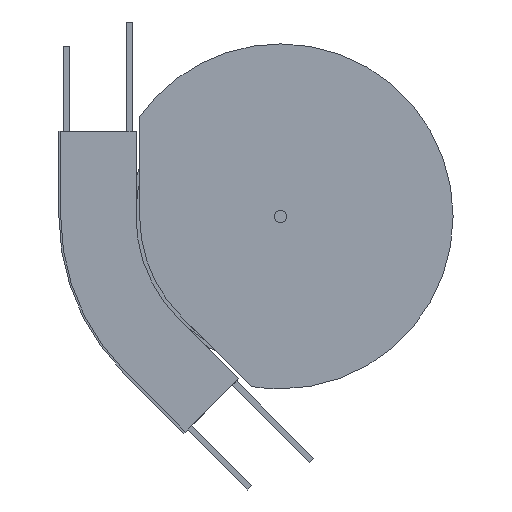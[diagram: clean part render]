
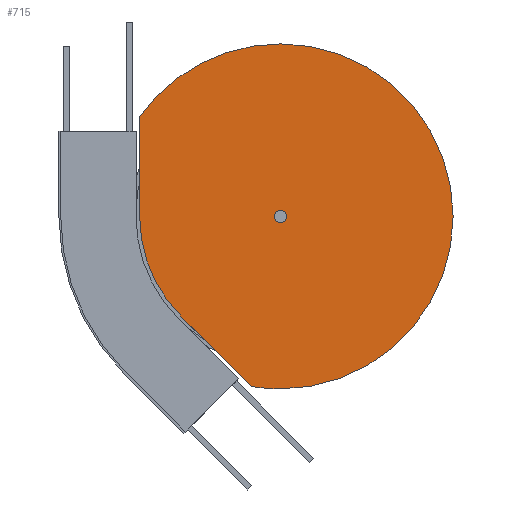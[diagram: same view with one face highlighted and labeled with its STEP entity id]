
A CAD part, front view. The second image highlights one B-rep face of the part: STEP entity #715.
In plain terms, the highlighted planar face has unit normal (0, -1, 0).
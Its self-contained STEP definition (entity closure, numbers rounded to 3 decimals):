
#105 = CIRCLE ( 'NONE', #1483, 142. ) ;
#211 = EDGE_CURVE ( 'NONE', #5673, #1611, #830, .T. ) ;
#300 = CARTESIAN_POINT ( 'NONE',  ( 125.889, -38.75, -209.938 ) ) ;
#371 = CARTESIAN_POINT ( 'NONE',  ( 67.976, -38.75, -152.024 ) ) ;
#442 = ORIENTED_EDGE ( 'NONE', *, *, #211, .F. ) ;
#568 = EDGE_LOOP ( 'NONE', ( #442, #2514 ) ) ;
#602 = VERTEX_POINT ( 'NONE', #2727 ) ;
#715 = ADVANCED_FACE ( 'NONE', ( #820, #2637 ), #1903, .F. ) ;
#820 = FACE_BOUND ( 'NONE', #568, .T. ) ;
#830 = CIRCLE ( 'NONE', #3788, 5. ) ;
#847 = DIRECTION ( 'NONE',  ( 0., 1., 0. ) ) ;
#881 = EDGE_CURVE ( 'NONE', #4497, #3046, #3847, .T. ) ;
#903 = CARTESIAN_POINT ( 'NONE',  ( 150., -38.75, -65. ) ) ;
#944 = ORIENTED_EDGE ( 'NONE', *, *, #2451, .T. ) ;
#1093 = CARTESIAN_POINT ( 'NONE',  ( 34., -38.75, 11.902 ) ) ;
#1325 = DIRECTION ( 'NONE',  ( 0., 0., -1. ) ) ;
#1483 = AXIS2_PLACEMENT_3D ( 'NONE', #2504, #4327, #5644 ) ;
#1491 = ORIENTED_EDGE ( 'NONE', *, *, #5819, .F. ) ;
#1539 = AXIS2_PLACEMENT_3D ( 'NONE', #5070, #3309, #3249 ) ;
#1611 = VERTEX_POINT ( 'NONE', #4311 ) ;
#1727 = CARTESIAN_POINT ( 'NONE',  ( 150., -38.75, -70. ) ) ;
#1874 = DIRECTION ( 'NONE',  ( 0., 0., 1. ) ) ;
#1903 = PLANE ( 'NONE',  #1539 ) ;
#1910 = VECTOR ( 'NONE', #3328, 1000. ) ;
#1989 = AXIS2_PLACEMENT_3D ( 'NONE', #1727, #2655, #1325 ) ;
#2004 = AXIS2_PLACEMENT_3D ( 'NONE', #3642, #4149, #1874 ) ;
#2020 = CARTESIAN_POINT ( 'NONE',  ( 34., -38.75, -70. ) ) ;
#2451 = EDGE_CURVE ( 'NONE', #4497, #602, #3019, .T. ) ;
#2504 = CARTESIAN_POINT ( 'NONE',  ( 150., -38.75, -70. ) ) ;
#2514 = ORIENTED_EDGE ( 'NONE', *, *, #3250, .F. ) ;
#2553 = ORIENTED_EDGE ( 'NONE', *, *, #4820, .F. ) ;
#2585 = VERTEX_POINT ( 'NONE', #4559 ) ;
#2602 = CARTESIAN_POINT ( 'NONE',  ( 150., -38.75, 72. ) ) ;
#2637 = FACE_OUTER_BOUND ( 'NONE', #5311, .T. ) ;
#2655 = DIRECTION ( 'NONE',  ( 0., -1., 0. ) ) ;
#2727 = CARTESIAN_POINT ( 'NONE',  ( 67.976, -38.75, -152.024 ) ) ;
#2831 = LINE ( 'NONE', #371, #4614 ) ;
#2874 = DIRECTION ( 'NONE',  ( 0., -1., 0. ) ) ;
#2881 = AXIS2_PLACEMENT_3D ( 'NONE', #4270, #2874, #3352 ) ;
#3019 = CIRCLE ( 'NONE', #1989, 116. ) ;
#3046 = VERTEX_POINT ( 'NONE', #1093 ) ;
#3052 = CIRCLE ( 'NONE', #2004, 142. ) ;
#3144 = CARTESIAN_POINT ( 'NONE',  ( 34., -38.75, -70. ) ) ;
#3249 = DIRECTION ( 'NONE',  ( 0., 0., -1. ) ) ;
#3250 = EDGE_CURVE ( 'NONE', #1611, #5673, #4766, .T. ) ;
#3309 = DIRECTION ( 'NONE',  ( 0., 1., 0. ) ) ;
#3328 = DIRECTION ( 'NONE',  ( 0., 0., 1. ) ) ;
#3352 = DIRECTION ( 'NONE',  ( 0., 0., 1. ) ) ;
#3642 = CARTESIAN_POINT ( 'NONE',  ( 150., -38.75, -70. ) ) ;
#3788 = AXIS2_PLACEMENT_3D ( 'NONE', #5312, #4403, #4347 ) ;
#3838 = EDGE_CURVE ( 'NONE', #3983, #602, #2831, .T. ) ;
#3847 = LINE ( 'NONE', #2020, #1910 ) ;
#3983 = VERTEX_POINT ( 'NONE', #300 ) ;
#4052 = DIRECTION ( 'NONE',  ( 0., 0., 1. ) ) ;
#4149 = DIRECTION ( 'NONE',  ( 0., 1., 0. ) ) ;
#4270 = CARTESIAN_POINT ( 'NONE',  ( 150., -38.75, -70. ) ) ;
#4311 = CARTESIAN_POINT ( 'NONE',  ( 150., -38.75, -75. ) ) ;
#4327 = DIRECTION ( 'NONE',  ( 0., 1., 0. ) ) ;
#4347 = DIRECTION ( 'NONE',  ( 0., 0., 1. ) ) ;
#4384 = AXIS2_PLACEMENT_3D ( 'NONE', #5840, #847, #4052 ) ;
#4403 = DIRECTION ( 'NONE',  ( 0., -1., 0. ) ) ;
#4497 = VERTEX_POINT ( 'NONE', #3144 ) ;
#4542 = ORIENTED_EDGE ( 'NONE', *, *, #3838, .F. ) ;
#4559 = CARTESIAN_POINT ( 'NONE',  ( 150., -38.75, -212. ) ) ;
#4614 = VECTOR ( 'NONE', #5640, 1000. ) ;
#4766 = CIRCLE ( 'NONE', #2881, 5. ) ;
#4820 = EDGE_CURVE ( 'NONE', #3046, #5570, #105, .T. ) ;
#5070 = CARTESIAN_POINT ( 'NONE',  ( 34., -38.75, -70. ) ) ;
#5156 = CIRCLE ( 'NONE', #4384, 142. ) ;
#5311 = EDGE_LOOP ( 'NONE', ( #944, #4542, #1491, #5436, #2553, #5785 ) ) ;
#5312 = CARTESIAN_POINT ( 'NONE',  ( 150., -38.75, -70. ) ) ;
#5436 = ORIENTED_EDGE ( 'NONE', *, *, #5641, .F. ) ;
#5570 = VERTEX_POINT ( 'NONE', #2602 ) ;
#5640 = DIRECTION ( 'NONE',  ( -0.707, 0., 0.707 ) ) ;
#5641 = EDGE_CURVE ( 'NONE', #5570, #2585, #5156, .T. ) ;
#5644 = DIRECTION ( 'NONE',  ( 0., 0., 1. ) ) ;
#5673 = VERTEX_POINT ( 'NONE', #903 ) ;
#5785 = ORIENTED_EDGE ( 'NONE', *, *, #881, .F. ) ;
#5819 = EDGE_CURVE ( 'NONE', #2585, #3983, #3052, .T. ) ;
#5840 = CARTESIAN_POINT ( 'NONE',  ( 150., -38.75, -70. ) ) ;
